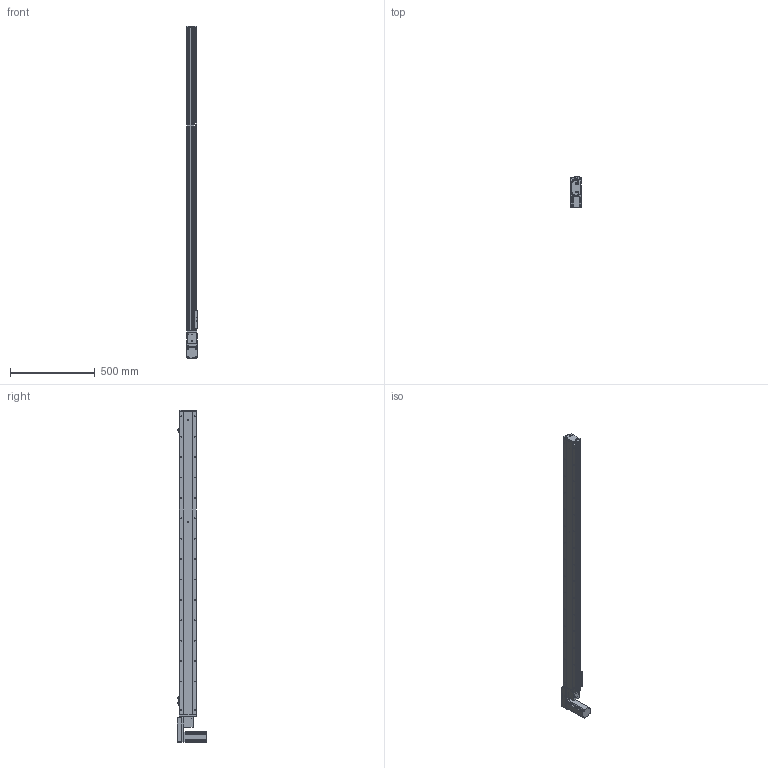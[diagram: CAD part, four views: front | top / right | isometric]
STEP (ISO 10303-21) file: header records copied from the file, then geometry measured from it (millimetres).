
FILE_DESCRIPTION (( 'STEP AP214' ), '1' );
FILE_NAME ('KSD100B-S1600-MLB-CM.STEP', '2019-08-31T02:27:16', ( '微软用户' ), ( '微软中国' ), 'SwSTEP 2.0', 'SolidWorks 2014', '' );
FILE_SCHEMA (( 'AUTOMOTIVE_DESIGN' ));
Length unit declared in the file: millimetre
Products named in the file (12): 悵誘欶奻狟殏; 100宽马达安装板连板上下折丝杆同步带; 台达ECMA－C20604AS伺服电机; U倰嫖萇EEㄜSX672; 覜茼え100遵圉猾敕; 100宽防尘板1600行程-同步带; 100宽马达安装板同步带左; 100宽同步带安装板半封闭; 100宽马达安装板同步带; 100遵傷啣肮祭湍; 100宽底板半封闭同步带1600行程; KSD100B-S1600-MLB-CM
Assembly tree (13 placements, depth 2):
  KSD100B-S1600-MLB-CM
    100宽底板半封闭同步带1600行程
    100遵傷啣肮祭湍
    100宽马达安装板同步带
    100宽同步带安装板半封闭
    100宽马达安装板同步带左
    100宽防尘板1600行程-同步带
    覜茼え100遵圉猾敕
    U倰嫖萇EEㄜSX672  x3
    台达ECMA－C20604AS伺服电机
    100宽马达安装板连板上下折丝杆同步带
    悵誘欶奻狟殏
Bounding box: 61 x 174.7 x 1953 mm (x, y, z)
Volume: 3927056.2 mm3; surface area: 1338216.6 mm2
Topology: 14 solids, 14 shells, 1639 faces, 4642 edges, 2927 vertices
Faces by surface type: cylinder 849, plane 611, cone 179
Entity records: 59831 total; most frequent: CARTESIAN_POINT 12630, DIRECTION 8098, ORIENTED_EDGE 7832, EDGE_CURVE 3916, AXIS2_PLACEMENT_3D 2981, VERTEX_POINT 2551, LINE 2136, VECTOR 2136
